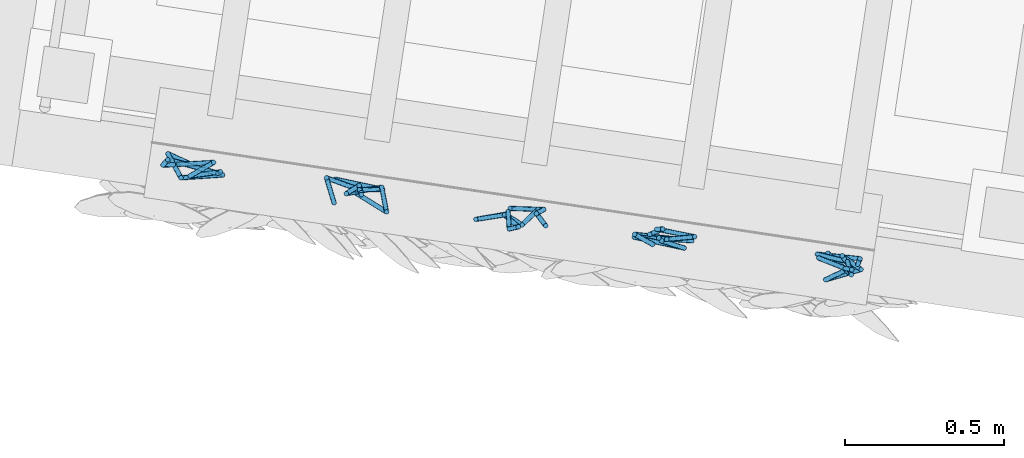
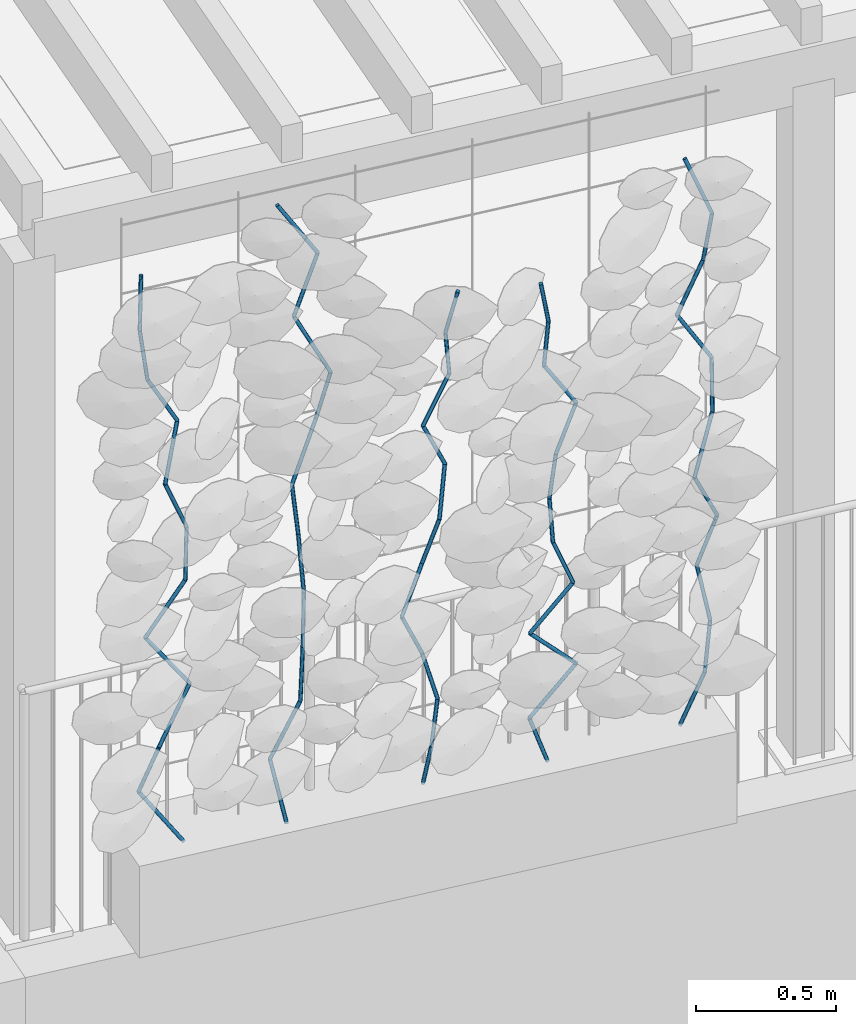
# One storey, part 102 of 128: 55 members, 1 element without a shape of its own.
"""IFC4 building model written with IfcOpenShell, lengths in metres."""

from ifc_helpers import new_model, si_unit, direction, frame, origin_with_axes, place, context, subcontext, project, spatial, circle, extrude, material, material_profile, profile_set, profile_usage, type_object, element, aggregate, save


model = new_model("IFC4")

# Units and contexts
model_context = context("Model", 3, precision=1e-05, world=origin_with_axes(), true_north=direction((0.0, 1.0)))
body_context = subcontext(model_context, "Body", "Model", "MODEL_VIEW")
ifc_project = project(units=[si_unit("VOLUMEUNIT", "CUBIC_METRE"), si_unit("LENGTHUNIT", "METRE"), si_unit("AREAUNIT", "SQUARE_METRE")], contexts=[model_context])

# Site, building, storey
site_placement = place(None, origin_with_axes())
site = spatial("IfcSite", under=ifc_project, at=site_placement, Name="Lares · Rua das Mercês · artigo 4771")
building_placement = place(site_placement, frame((15.0, 9.7, 13.9), z_axis=(0.0, 0.0, 1.0), x_axis=(0.989015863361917, -0.147809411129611, 0.0)))
building = spatial("IfcBuilding", under=site, at=building_placement, Name="Casa Sobreposta")
storey_placement = place(building_placement, origin_with_axes())
storey = spatial("IfcBuildingStorey", under=building, at=storey_placement, Name="00 · Habitação e estacionamento", Elevation=13.9)

# Assembly, members
assembly_placement = place(storey_placement, origin_with_axes())
assembly = element("IfcElementAssembly", 1, at=assembly_placement, inside=storey, Name="Fachada sul e pátio · estrutura e trepadeiras", ObjectType="LIVING_SHADE_TRELLIS", PredefinedType="USERDEFINED")
ifc_material = material(Name="Ramos de trepadeiras", Category="wood")
ifc_material_profile = material_profile(ifc_material, circle(Radius=0.0075))
ifc_profile_set = profile_set([ifc_material_profile], Name="D0.015")
ifc_profile_usage_1 = profile_usage(ifc_profile_set)
member_type = type_object("IfcMemberType", Name="D0.015 / vine_wood", PredefinedType="NOTDEFINED", material=ifc_profile_set)
member_1_placement = place(assembly_placement, frame((-5.48911948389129, -1.68313375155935, 0.35), z_axis=(-0.5585958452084, 0.161686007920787, 0.813528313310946), x_axis=(0.278037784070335, 0.960570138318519, 0.0)))
member_1 = element("IfcMember", 2, at=member_1_placement, type_object=member_type, material=ifc_profile_usage_1, Name="Trepadeiras · ramo", context=body_context, shape_type="SweptSolid", body=[
    extrude(circle(Radius=0.0075), origin_with_axes(), (0.0, 0.0, 1.0), 0.279247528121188),
])
ifc_profile_usage_2 = profile_usage(ifc_profile_set)
member_2_placement = place(assembly_placement, frame((-5.64510599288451, -1.63798333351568, 0.577175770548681), z_axis=(0.214287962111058, -0.283819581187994, 0.934626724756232), x_axis=(-0.798074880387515, -0.602558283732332, -1.82360061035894e-17)))
member_2 = element("IfcMember", 3, at=member_2_placement, type_object=member_type, material=ifc_profile_usage_2, Name="Trepadeiras · ramo", context=body_context, shape_type="SweptSolid", body=[
    extrude(circle(Radius=0.0075), origin_with_axes(), (0.0, 0.0, 1.0), 0.243065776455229),
])
ifc_profile_usage_3 = profile_usage(ifc_profile_set)
member_3_placement = place(assembly_placement, frame((-5.59301992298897, -1.70697016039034, 0.804351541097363), z_axis=(0.49060306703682, 0.107168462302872, 0.864767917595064), x_axis=(0.213409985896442, -0.976962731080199, 0.0)))
member_3 = element("IfcMember", 4, at=member_3_placement, type_object=member_type, material=ifc_profile_usage_3, Name="Trepadeiras · ramo", context=body_context, shape_type="SweptSolid", body=[
    extrude(circle(Radius=0.0075), origin_with_axes(), (0.0, 0.0, 1.0), 0.262701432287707),
])
ifc_profile_usage_4 = profile_usage(ifc_profile_set)
member_4_placement = place(assembly_placement, frame((-5.46413779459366, -1.67881685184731, 1.03152731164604), z_axis=(-0.580908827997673, 0.0761918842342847, 0.810394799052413), x_axis=(0.130045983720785, 0.991507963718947, 0.0)))
member_4 = element("IfcMember", 5, at=member_4_placement, type_object=member_type, material=ifc_profile_usage_4, Name="Trepadeiras · ramo", context=body_context, shape_type="SweptSolid", body=[
    extrude(circle(Radius=0.0075), origin_with_axes(), (0.0, 0.0, 1.0), 0.280327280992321),
])
ifc_profile_usage_5 = profile_usage(ifc_profile_set)
member_5_placement = place(assembly_placement, frame((-5.62698238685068, -1.65745818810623, 1.25870308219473), z_axis=(0.542876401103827, -0.0652245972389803, 0.837275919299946), x_axis=(-0.119288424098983, -0.992859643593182, 0.0)))
member_5 = element("IfcMember", 6, at=member_5_placement, type_object=member_type, material=ifc_profile_usage_5, Name="Trepadeiras · ramo", context=body_context, shape_type="SweptSolid", body=[
    extrude(circle(Radius=0.0075), origin_with_axes(), (0.0, 0.0, 1.0), 0.27132724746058),
])
ifc_profile_usage_6 = profile_usage(ifc_profile_set)
member_6_placement = place(assembly_placement, frame((-5.47968522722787, -1.6751553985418, 1.48587885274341), z_axis=(0.0303617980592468, 0.0225812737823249, 0.999283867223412), x_axis=(0.999538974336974, -0.000685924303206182, -0.0303540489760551)))
member_6 = element("IfcMember", 7, at=member_6_placement, type_object=member_type, material=ifc_profile_usage_6, Name="Trepadeiras · ramo", context=body_context, shape_type="SweptSolid", body=[
    extrude(circle(Radius=0.0075), origin_with_axes(), (0.0, 0.0, 1.0), 0.227338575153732),
])
ifc_profile_usage_7 = profile_usage(ifc_profile_set)
member_7_placement = place(assembly_placement, frame((-5.47278281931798, -1.67002180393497, 1.71305462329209), z_axis=(-0.377036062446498, -0.109503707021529, 0.919702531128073), x_axis=(-0.278907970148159, 0.960317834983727, 0.0)))
member_7 = element("IfcMember", 8, at=member_7_placement, type_object=member_type, material=ifc_profile_usage_7, Name="Trepadeiras · ramo", context=body_context, shape_type="SweptSolid", body=[
    extrude(circle(Radius=0.0075), origin_with_axes(), (0.0, 0.0, 1.0), 0.24701005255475),
])
ifc_profile_usage_8 = profile_usage(ifc_profile_set)
member_8_placement = place(assembly_placement, frame((-5.56591451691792, -1.6970703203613, 1.94023039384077), z_axis=(0.277419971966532, 0.219319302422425, 0.935380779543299), x_axis=(0.620172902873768, -0.784465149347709, 0.0)))
member_8 = element("IfcMember", 9, at=member_8_placement, type_object=member_type, material=ifc_profile_usage_8, Name="Trepadeiras · ramo", context=body_context, shape_type="SweptSolid", body=[
    extrude(circle(Radius=0.0075), origin_with_axes(), (0.0, 0.0, 1.0), 0.242869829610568),
])
ifc_profile_usage_9 = profile_usage(ifc_profile_set)
member_9_placement = place(assembly_placement, frame((-5.49853757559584, -1.64380427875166, 2.16740616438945), z_axis=(-0.479601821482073, -0.100828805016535, 0.871674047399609), x_axis=(-0.205736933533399, 0.97860733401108, 0.0)))
member_9 = element("IfcMember", 10, at=member_9_placement, type_object=member_type, material=ifc_profile_usage_9, Name="Trepadeiras · ramo", context=body_context, shape_type="SweptSolid", body=[
    extrude(circle(Radius=0.0075), origin_with_axes(), (0.0, 0.0, 1.0), 0.260620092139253),
])
ifc_profile_usage_10 = profile_usage(ifc_profile_set)
member_10_placement = place(assembly_placement, frame((-5.62353144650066, -1.67008229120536, 2.39458193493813), z_axis=(-0.138199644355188, -0.0231936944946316, 0.99013277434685), x_axis=(-0.165512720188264, 0.986207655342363, 0.0)))
member_10 = element("IfcMember", 11, at=member_10_placement, type_object=member_type, material=ifc_profile_usage_10, Name="Trepadeiras · ramo", context=body_context, shape_type="SweptSolid", body=[
    extrude(circle(Radius=0.0075), origin_with_axes(), (0.0, 0.0, 1.0), 0.229439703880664),
])
ifc_profile_usage_11 = profile_usage(ifc_profile_set)
member_11_placement = place(assembly_placement, frame((-5.65523993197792, -1.67540384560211, 2.62175770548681), z_axis=(0.0535549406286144, 0.0806436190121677, 0.99530320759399), x_axis=(0.833038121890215, -0.55321558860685, 0.0)))
member_11 = element("IfcMember", 12, at=member_11_placement, type_object=member_type, material=ifc_profile_usage_11, Name="Trepadeiras · ramo", context=body_context, shape_type="SweptSolid", body=[
    extrude(circle(Radius=0.0075), origin_with_axes(), (0.0, 0.0, 1.0), 0.228247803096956),
])
ifc_profile_usage_12 = profile_usage(ifc_profile_set)
member_12_placement = place(assembly_placement, frame((-5.10468814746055, -1.71366116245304, 0.35), z_axis=(-0.137802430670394, 0.29166054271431, 0.946543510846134), x_axis=(0.90416024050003, 0.427193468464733, 0.0)))
member_12 = element("IfcMember", 13, at=member_12_placement, type_object=member_type, material=ifc_profile_usage_12, Name="Trepadeiras · ramo", context=body_context, shape_type="SweptSolid", body=[
    extrude(circle(Radius=0.0075), origin_with_axes(), (0.0, 0.0, 1.0), 0.255140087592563),
])
ifc_profile_usage_13 = profile_usage(ifc_profile_set)
member_13_placement = place(assembly_placement, frame((-5.13984707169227, -1.63924686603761, 0.591501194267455), z_axis=(0.408423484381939, -0.0832690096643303, 0.908986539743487), x_axis=(-0.199769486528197, -0.9798429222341, 0.0)))
member_13 = element("IfcMember", 14, at=member_13_placement, type_object=member_type, material=ifc_profile_usage_13, Name="Trepadeiras · ramo", context=body_context, shape_type="SweptSolid", body=[
    extrude(circle(Radius=0.0075), origin_with_axes(), (0.0, 0.0, 1.0), 0.265681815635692),
])
ifc_profile_usage_14 = profile_usage(ifc_profile_set)
member_14_placement = place(assembly_placement, frame((-5.03133637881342, -1.66136992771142, 0.83300238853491), z_axis=(0.0253217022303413, -0.0345834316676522, 0.999080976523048), x_axis=(0.999679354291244, 0.000875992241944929, -0.0253065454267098)))
member_14 = element("IfcMember", 15, at=member_14_placement, type_object=member_type, material=ifc_profile_usage_14, Name="Trepadeiras · ramo", context=body_context, shape_type="SweptSolid", body=[
    extrude(circle(Radius=0.0075), origin_with_axes(), (0.0, 0.0, 1.0), 0.241723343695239),
])
ifc_profile_usage_15 = profile_usage(ifc_profile_set)
member_15_placement = place(assembly_placement, frame((-5.02521553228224, -1.66972955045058, 1.07450358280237), z_axis=(0.00711907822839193, -0.0231558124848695, 0.999706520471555), x_axis=(0.999974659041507, 0.000164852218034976, -0.00711716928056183)))
member_15 = element("IfcMember", 16, at=member_15_placement, type_object=member_type, material=ifc_profile_usage_15, Name="Trepadeiras · ramo", context=body_context, shape_type="SweptSolid", body=[
    extrude(circle(Radius=0.0075), origin_with_axes(), (0.0, 0.0, 1.0), 0.241572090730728),
])
ifc_profile_usage_16 = profile_usage(ifc_profile_set)
member_16_placement = place(assembly_placement, frame((-5.02349576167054, -1.67532334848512, 1.31600477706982), z_axis=(-0.045968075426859, 0.11193816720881, 0.992651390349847), x_axis=(0.925038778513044, 0.379872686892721, 0.0)))
member_16 = element("IfcMember", 17, at=member_16_placement, type_object=member_type, material=ifc_profile_usage_16, Name="Trepadeiras · ramo", context=body_context, shape_type="SweptSolid", body=[
    extrude(circle(Radius=0.0075), origin_with_axes(), (0.0, 0.0, 1.0), 0.243289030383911),
])
ifc_profile_usage_17 = profile_usage(ifc_profile_set)
member_17_placement = place(assembly_placement, frame((-5.03467929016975, -1.64809002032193, 1.55750597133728), z_axis=(-0.147228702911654, -0.12659142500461, 0.980968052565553), x_axis=(-0.651964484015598, 0.758249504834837, 0.0)))
member_17 = element("IfcMember", 18, at=member_17_placement, type_object=member_type, material=ifc_profile_usage_17, Name="Trepadeiras · ramo", context=body_context, shape_type="SweptSolid", body=[
    extrude(circle(Radius=0.0075), origin_with_axes(), (0.0, 0.0, 1.0), 0.246186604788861),
])
ifc_profile_usage_18 = profile_usage(ifc_profile_set)
member_18_placement = place(assembly_placement, frame((-5.07092502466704, -1.6792551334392, 1.79900716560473), z_axis=(0.40264919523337, 0.135561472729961, 0.905260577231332), x_axis=(0.319075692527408, -0.947729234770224, 0.0)))
member_18 = element("IfcMember", 19, at=member_18_placement, type_object=member_type, material=ifc_profile_usage_18, Name="Trepadeiras · ramo", context=body_context, shape_type="SweptSolid", body=[
    extrude(circle(Radius=0.0075), origin_with_axes(), (0.0, 0.0, 1.0), 0.266775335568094),
])
ifc_profile_usage_19 = profile_usage(ifc_profile_set)
member_19_placement = place(assembly_placement, frame((-4.96350815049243, -1.64309067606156, 2.04050835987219), z_axis=(0.103831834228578, -0.293087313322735, 0.950430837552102), x_axis=(-0.942596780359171, -0.33393309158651, 1.06049763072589e-17)))
member_19 = element("IfcMember", 20, at=member_19_placement, type_object=member_type, material=ifc_profile_usage_19, Name="Trepadeiras · ramo", context=body_context, shape_type="SweptSolid", body=[
    extrude(circle(Radius=0.0075), origin_with_axes(), (0.0, 0.0, 1.0), 0.254096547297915),
])
ifc_profile_usage_20 = profile_usage(ifc_profile_set)
member_20_placement = place(assembly_placement, frame((-4.93712483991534, -1.71756315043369, 2.28200955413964), z_axis=(-0.44006639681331, 0.189245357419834, 0.877797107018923), x_axis=(0.395057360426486, 0.918656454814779, 0.0)))
member_20 = element("IfcMember", 21, at=member_20_placement, type_object=member_type, material=ifc_profile_usage_20, Name="Trepadeiras · ramo", context=body_context, shape_type="SweptSolid", body=[
    extrude(circle(Radius=0.0075), origin_with_axes(), (0.0, 0.0, 1.0), 0.275121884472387),
])
ifc_profile_usage_21 = profile_usage(ifc_profile_set)
member_21_placement = place(assembly_placement, frame((-5.05819673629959, -1.6654976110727, 2.5235107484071), z_axis=(0.376883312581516, 0.0630175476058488, 0.924114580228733), x_axis=(0.164917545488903, -0.986307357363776, 0.0)))
member_21 = element("IfcMember", 22, at=member_21_placement, type_object=member_type, material=ifc_profile_usage_21, Name="Trepadeiras · ramo", context=body_context, shape_type="SweptSolid", body=[
    extrude(circle(Radius=0.0075), origin_with_axes(), (0.0, 0.0, 1.0), 0.261332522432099),
])
ifc_profile_usage_22 = profile_usage(ifc_profile_set)
member_22_placement = place(assembly_placement, frame((-4.9597048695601, -1.64902907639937, 2.76501194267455), z_axis=(-0.533411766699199, 0.0331714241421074, 0.845205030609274), x_axis=(0.0620673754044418, 0.998071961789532, 0.0)))
member_22 = element("IfcMember", 23, at=member_22_placement, type_object=member_type, material=ifc_profile_usage_22, Name="Trepadeiras · ramo", context=body_context, shape_type="SweptSolid", body=[
    extrude(circle(Radius=0.0075), origin_with_axes(), (0.0, 0.0, 1.0), 0.285730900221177),
])
ifc_profile_usage_23 = profile_usage(ifc_profile_set)
member_23_placement = place(assembly_placement, frame((-4.55888643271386, -1.65994677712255, 0.35), z_axis=(0.0582059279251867, -0.2646234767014, 0.962593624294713), x_axis=(-0.976653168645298, -0.214822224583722, 0.0)))
member_23 = element("IfcMember", 24, at=member_23_placement, type_object=member_type, material=ifc_profile_usage_23, Name="Trepadeiras · ramo", context=body_context, shape_type="SweptSolid", body=[
    extrude(circle(Radius=0.0075), origin_with_axes(), (0.0, 0.0, 1.0), 0.201881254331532),
])
ifc_profile_usage_24 = profile_usage(ifc_profile_set)
member_24_placement = place(assembly_placement, frame((-4.5471357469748, -1.7133692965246, 0.544329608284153), z_axis=(0.139714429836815, 0.0541381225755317, 0.988710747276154), x_axis=(0.361313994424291, -0.932444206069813, -5.7233605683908e-18)))
member_24 = element("IfcMember", 25, at=member_24_placement, type_object=member_type, material=ifc_profile_usage_24, Name="Trepadeiras · ramo", context=body_context, shape_type="SweptSolid", body=[
    extrude(circle(Radius=0.0075), origin_with_axes(), (0.0, 0.0, 1.0), 0.19654849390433),
])
ifc_profile_usage_25 = profile_usage(ifc_profile_set)
member_25_placement = place(assembly_placement, frame((-4.51967508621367, -1.70272853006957, 0.738659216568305), z_axis=(-0.24083116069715, 0.152433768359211, 0.958521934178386), x_axis=(0.534820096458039, 0.844965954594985, 0.0)))
member_25 = element("IfcMember", 26, at=member_25_placement, type_object=member_type, material=ifc_profile_usage_25, Name="Trepadeiras · ramo", context=body_context, shape_type="SweptSolid", body=[
    extrude(circle(Radius=0.0075), origin_with_axes(), (0.0, 0.0, 1.0), 0.202738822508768),
])
ifc_profile_usage_26 = profile_usage(ifc_profile_set)
member_26_placement = place(assembly_placement, frame((-4.56850091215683, -1.67182428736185, 0.932988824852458), z_axis=(-0.406142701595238, -0.127109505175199, 0.904926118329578), x_axis=(-0.298681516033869, 0.954352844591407, 0.0)))
member_26 = element("IfcMember", 27, at=member_26_placement, type_object=member_type, material=ifc_profile_usage_26, Name="Trepadeiras · ramo", context=body_context, shape_type="SweptSolid", body=[
    extrude(circle(Radius=0.0075), origin_with_axes(), (0.0, 0.0, 1.0), 0.214746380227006),
])
ifc_profile_usage_27 = profile_usage(ifc_profile_set)
member_27_placement = place(assembly_placement, frame((-4.65571858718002, -1.69912059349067, 1.12731843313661), z_axis=(0.415919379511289, 0.137488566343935, 0.898948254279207), x_axis=(0.313861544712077, -0.949468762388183, 1.42395565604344e-17)))
member_27 = element("IfcMember", 28, at=member_27_placement, type_object=member_type, material=ifc_profile_usage_27, Name="Trepadeiras · ramo", context=body_context, shape_type="SweptSolid", body=[
    extrude(circle(Radius=0.0075), origin_with_axes(), (0.0, 0.0, 1.0), 0.21617440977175),
])
ifc_profile_usage_28 = profile_usage(ifc_profile_set)
member_28_placement = place(assembly_placement, frame((-4.56580746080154, -1.66939908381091, 1.32164804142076), z_axis=(0.277708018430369, -0.125468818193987, 0.952436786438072), x_axis=(-0.411729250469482, -0.911306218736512, 0.0)))
member_28 = element("IfcMember", 29, at=member_28_placement, type_object=member_type, material=ifc_profile_usage_28, Name="Trepadeiras · ramo", context=body_context, shape_type="SweptSolid", body=[
    extrude(circle(Radius=0.0075), origin_with_axes(), (0.0, 0.0, 1.0), 0.204034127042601),
])
ifc_profile_usage_29 = profile_usage(ifc_profile_set)
member_29_placement = place(assembly_placement, frame((-4.50914554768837, -1.69499900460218, 1.51597764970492), z_axis=(0.207151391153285, 0.27088338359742, 0.940058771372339), x_axis=(0.794350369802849, -0.607459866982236, 0.0)))
member_29 = element("IfcMember", 30, at=member_29_placement, type_object=member_type, material=ifc_profile_usage_29, Name="Trepadeiras · ramo", context=body_context, shape_type="SweptSolid", body=[
    extrude(circle(Radius=0.0075), origin_with_axes(), (0.0, 0.0, 1.0), 0.206720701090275),
])
ifc_profile_usage_30 = profile_usage(ifc_profile_set)
member_30_placement = place(assembly_placement, frame((-4.46632306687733, -1.63900180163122, 1.71030725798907), z_axis=(-0.411905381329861, -0.0476821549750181, 0.90997822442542), x_axis=(-0.11499206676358, 0.993366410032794, 0.0)))
member_30 = element("IfcMember", 31, at=member_30_placement, type_object=member_type, material=ifc_profile_usage_30, Name="Trepadeiras · ramo", context=body_context, shape_type="SweptSolid", body=[
    extrude(circle(Radius=0.0075), origin_with_axes(), (0.0, 0.0, 1.0), 0.213554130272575),
])
ifc_profile_usage_31 = profile_usage(ifc_profile_set)
member_31_placement = place(assembly_placement, frame((-4.55428716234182, -1.64918452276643, 1.90463686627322), z_axis=(0.477641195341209, 0.0557818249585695, 0.876782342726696), x_axis=(0.115997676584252, -0.993249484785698, 0.0)))
member_31 = element("IfcMember", 32, at=member_31_placement, type_object=member_type, material=ifc_profile_usage_31, Name="Trepadeiras · ramo", context=body_context, shape_type="SweptSolid", body=[
    extrude(circle(Radius=0.0075), origin_with_axes(), (0.0, 0.0, 1.0), 0.221639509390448),
])
ifc_profile_usage_32 = profile_usage(ifc_profile_set)
member_32_placement = place(assembly_placement, frame((-4.44842300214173, -1.63682106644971, 2.09896647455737), z_axis=(-0.107089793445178, -0.0814407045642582, 0.990908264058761), x_axis=(-0.605330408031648, 0.795974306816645, 0.0)))
member_32 = element("IfcMember", 33, at=member_32_placement, type_object=member_type, material=ifc_profile_usage_32, Name="Trepadeiras · ramo", context=body_context, shape_type="SweptSolid", body=[
    extrude(circle(Radius=0.0075), origin_with_axes(), (0.0, 0.0, 1.0), 0.196112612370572),
])
ifc_profile_usage_33 = profile_usage(ifc_profile_set)
member_33_placement = place(assembly_placement, frame((-4.46942466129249, -1.65279261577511, 2.29329608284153), z_axis=(0.172625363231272, -0.169503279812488, 0.970293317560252), x_axis=(-0.70062493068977, -0.713529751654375, 0.0)))
member_33 = element("IfcMember", 34, at=member_33_placement, type_object=member_type, material=ifc_profile_usage_33, Name="Trepadeiras · ramo", context=body_context, shape_type="SweptSolid", body=[
    extrude(circle(Radius=0.0075), origin_with_axes(), (0.0, 0.0, 1.0), 0.200279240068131),
])
ifc_profile_usage_34 = profile_usage(ifc_profile_set)
member_34_placement = place(assembly_placement, frame((-4.09287553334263, -1.6949556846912, 0.35), z_axis=(-0.307187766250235, 0.116740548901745, 0.944461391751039), x_axis=(0.355242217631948, 0.934774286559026, 0.0)))
member_34 = element("IfcMember", 35, at=member_34_placement, type_object=member_type, material=ifc_profile_usage_34, Name="Trepadeiras · ramo", context=body_context, shape_type="SweptSolid", body=[
    extrude(circle(Radius=0.0075), origin_with_axes(), (0.0, 0.0, 1.0), 0.199476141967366),
])
ifc_profile_usage_35 = profile_usage(ifc_profile_set)
member_35_placement = place(assembly_placement, frame((-4.1541521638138, -1.67166873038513, 0.538397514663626), z_axis=(0.696809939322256, 0.0254508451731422, 0.716804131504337), x_axis=(0.0365004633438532, -0.999333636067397, 0.0)))
member_35 = element("IfcMember", 36, at=member_35_placement, type_object=member_type, material=ifc_profile_usage_35, Name="Trepadeiras · ramo", context=body_context, shape_type="SweptSolid", body=[
    extrude(circle(Radius=0.0075), origin_with_axes(), (0.0, 0.0, 1.0), 0.262829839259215),
])
ifc_profile_usage_36 = profile_usage(ifc_profile_set)
member_36_placement = place(assembly_placement, frame((-3.97100971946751, -1.66497948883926, 0.726795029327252), z_axis=(-0.698068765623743, -0.0595200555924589, 0.713552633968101), x_axis=(-0.0849556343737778, 0.99638473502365, 0.0)))
member_36 = element("IfcMember", 37, at=member_36_placement, type_object=member_type, material=ifc_profile_usage_36, Name="Trepadeiras · ramo", context=body_context, shape_type="SweptSolid", body=[
    extrude(circle(Radius=0.0075), origin_with_axes(), (0.0, 0.0, 1.0), 0.264027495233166),
])
ifc_profile_usage_37 = profile_usage(ifc_profile_set)
member_37_placement = place(assembly_placement, frame((-4.15531906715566, -1.68069442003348, 0.915192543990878), z_axis=(0.651819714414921, -0.0434715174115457, 0.757126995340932), x_axis=(-0.0665447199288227, -0.997783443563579, 0.0)))
member_37 = element("IfcMember", 38, at=member_37_placement, type_object=member_type, material=ifc_profile_usage_37, Name="Trepadeiras · ramo", context=body_context, shape_type="SweptSolid", body=[
    extrude(circle(Radius=0.0075), origin_with_axes(), (0.0, 0.0, 1.0), 0.248832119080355),
])
ifc_profile_usage_38 = profile_usage(ifc_profile_set)
member_38_placement = place(assembly_placement, frame((-3.99312538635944, -1.69151152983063, 1.1035900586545), z_axis=(-0.362175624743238, 0.0579118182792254, 0.930309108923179), x_axis=(0.157894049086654, 0.987456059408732, 8.80006917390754e-18)))
member_38 = element("IfcMember", 39, at=member_38_placement, type_object=member_type, material=ifc_profile_usage_38, Name="Trepadeiras · ramo", context=body_context, shape_type="SweptSolid", body=[
    extrude(circle(Radius=0.0075), origin_with_axes(), (0.0, 0.0, 1.0), 0.202510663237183),
])
ifc_profile_usage_39 = profile_usage(ifc_profile_set)
member_39_placement = place(assembly_placement, frame((-4.06646981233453, -1.67978376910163, 1.29198757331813), z_axis=(-0.0557975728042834, 0.042595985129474, 0.997533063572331), x_axis=(0.606795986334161, 0.794857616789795, 0.0)))
member_39 = element("IfcMember", 40, at=member_39_placement, type_object=member_type, material=ifc_profile_usage_39, Name="Trepadeiras · ramo", context=body_context, shape_type="SweptSolid", body=[
    extrude(circle(Radius=0.0075), origin_with_axes(), (0.0, 0.0, 1.0), 0.188863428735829),
])
ifc_profile_usage_40 = profile_usage(ifc_profile_set)
member_40_placement = place(assembly_placement, frame((-4.07700793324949, -1.6717389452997, 1.48038508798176), z_axis=(0.132079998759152, -0.00406458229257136, 0.991230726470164), x_axis=(-0.0307590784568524, -0.999526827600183, 0.0)))
member_40 = element("IfcMember", 41, at=member_40_placement, type_object=member_type, material=ifc_profile_usage_40, Name="Trepadeiras · ramo", context=body_context, shape_type="SweptSolid", body=[
    extrude(circle(Radius=0.0075), origin_with_axes(), (0.0, 0.0, 1.0), 0.190064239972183),
])
ifc_profile_usage_41 = profile_usage(ifc_profile_set)
member_41_placement = place(assembly_placement, frame((-4.0519042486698, -1.67251147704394, 1.66878260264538), z_axis=(0.413891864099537, 0.100720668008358, 0.904736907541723), x_axis=(0.236449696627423, -0.9716437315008, 0.0)))
member_41 = element("IfcMember", 42, at=member_41_placement, type_object=member_type, material=ifc_profile_usage_41, Name="Trepadeiras · ramo", context=body_context, shape_type="SweptSolid", body=[
    extrude(circle(Radius=0.0075), origin_with_axes(), (0.0, 0.0, 1.0), 0.208234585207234),
])
ifc_profile_usage_42 = profile_usage(ifc_profile_set)
member_42_placement = place(assembly_placement, frame((-3.96571764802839, -1.65153795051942, 1.85718011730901), z_axis=(-0.541985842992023, 0.0270437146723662, 0.839952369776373), x_axis=(0.0498354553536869, 0.998757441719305, 0.0)))
member_42 = element("IfcMember", 43, at=member_42_placement, type_object=member_type, material=ifc_profile_usage_42, Name="Trepadeiras · ramo", context=body_context, shape_type="SweptSolid", body=[
    extrude(circle(Radius=0.0075), origin_with_axes(), (0.0, 0.0, 1.0), 0.224295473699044),
])
ifc_profile_usage_43 = profile_usage(ifc_profile_set)
member_43_placement = place(assembly_placement, frame((-4.08728261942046, -1.6454721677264, 2.04557763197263), z_axis=(0.0964738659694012, 0.0163248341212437, 0.995201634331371), x_axis=(0.166843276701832, -0.985983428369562, 0.0)))
member_43 = element("IfcMember", 44, at=member_43_placement, type_object=member_type, material=ifc_profile_usage_43, Name="Trepadeiras · ramo", context=body_context, shape_type="SweptSolid", body=[
    extrude(circle(Radius=0.0075), origin_with_axes(), (0.0, 0.0, 1.0), 0.189305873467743),
])
ifc_profile_usage_44 = profile_usage(ifc_profile_set)
member_44_placement = place(assembly_placement, frame((-4.06901954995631, -1.64238178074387, 2.23397514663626), z_axis=(-0.197104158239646, -0.116474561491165, 0.973439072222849), x_axis=(-0.508742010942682, 0.860919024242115, 0.0)))
member_44 = element("IfcMember", 45, at=member_44_placement, type_object=member_type, material=ifc_profile_usage_44, Name="Trepadeiras · ramo", context=body_context, shape_type="SweptSolid", body=[
    extrude(circle(Radius=0.0075), origin_with_axes(), (0.0, 0.0, 1.0), 0.193538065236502),
])
ifc_profile_usage_45 = profile_usage(ifc_profile_set)
member_45_placement = place(assembly_placement, frame((-3.56977088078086, -1.65988401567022, 0.35), z_axis=(0.364069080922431, -0.0843859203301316, 0.927541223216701), x_axis=(-0.225799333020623, -0.974173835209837, 0.0)))
member_45 = element("IfcMember", 46, at=member_45_placement, type_object=member_type, material=ifc_profile_usage_45, Name="Trepadeiras · ramo", context=body_context, shape_type="SweptSolid", body=[
    extrude(circle(Radius=0.0075), origin_with_axes(), (0.0, 0.0, 1.0), 0.2409562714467),
])
ifc_profile_usage_46 = profile_usage(ifc_profile_set)
member_46_placement = place(assembly_placement, frame((-3.48204615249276, -1.68021733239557, 0.573496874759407), z_axis=(0.090375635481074, -0.00367253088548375, 0.995900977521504), x_axis=(-0.0406027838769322, -0.999175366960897, 0.0)))
member_46 = element("IfcMember", 47, at=member_46_placement, type_object=member_type, material=ifc_profile_usage_46, Name="Trepadeiras · ramo", context=body_context, shape_type="SweptSolid", body=[
    extrude(circle(Radius=0.0075), origin_with_axes(), (0.0, 0.0, 1.0), 0.224416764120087),
])
ifc_profile_usage_47 = profile_usage(ifc_profile_set)
member_47_placement = place(assembly_placement, frame((-3.4617643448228, -1.68104150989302, 0.796993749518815), z_axis=(-0.15679958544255, 0.169233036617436, 0.973023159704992), x_axis=(0.733539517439, 0.6796468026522, 0.0)))
member_47 = element("IfcMember", 48, at=member_47_placement, type_object=member_type, material=ifc_profile_usage_47, Name="Trepadeiras · ramo", context=body_context, shape_type="SweptSolid", body=[
    extrude(circle(Radius=0.0075), origin_with_axes(), (0.0, 0.0, 1.0), 0.229693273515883),
])
ifc_profile_usage_48 = profile_usage(ifc_profile_set)
member_48_placement = place(assembly_placement, frame((-3.49778015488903, -1.64216981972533, 1.02049062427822), z_axis=(0.277630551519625, -0.143382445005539, 0.949927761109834), x_axis=(-0.458868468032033, -0.888504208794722, 0.0)))
member_48 = element("IfcMember", 49, at=member_48_placement, type_object=member_type, material=ifc_profile_usage_48, Name="Trepadeiras · ramo", context=body_context, shape_type="SweptSolid", body=[
    extrude(circle(Radius=0.0075), origin_with_axes(), (0.0, 0.0, 1.0), 0.235277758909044),
])
ifc_profile_usage_49 = profile_usage(ifc_profile_set)
member_49_placement = place(assembly_placement, frame((-3.43245986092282, -1.67590452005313, 1.24398749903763), z_axis=(-0.422018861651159, -0.193526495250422, 0.885690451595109), x_axis=(-0.416834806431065, 0.908982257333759, 0.0)))
member_49 = element("IfcMember", 50, at=member_49_placement, type_object=member_type, material=ifc_profile_usage_49, Name="Trepadeiras · ramo", context=body_context, shape_type="SweptSolid", body=[
    extrude(circle(Radius=0.0075), origin_with_axes(), (0.0, 0.0, 1.0), 0.252341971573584),
])
ifc_profile_usage_50 = profile_usage(ifc_profile_set)
member_50_placement = place(assembly_placement, frame((-3.53895293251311, -1.72473937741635, 1.46748437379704), z_axis=(0.374557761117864, 0.252728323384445, 0.89209577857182), x_axis=(0.559323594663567, -0.828949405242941, 0.0)))
member_50 = element("IfcMember", 51, at=member_50_placement, type_object=member_type, material=ifc_profile_usage_50, Name="Trepadeiras · ramo", context=body_context, shape_type="SweptSolid", body=[
    extrude(circle(Radius=0.0075), origin_with_axes(), (0.0, 0.0, 1.0), 0.250530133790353),
])
ifc_profile_usage_51 = profile_usage(ifc_profile_set)
member_51_placement = place(assembly_placement, frame((-3.44511492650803, -1.66142331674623, 1.69098124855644), z_axis=(0.0181520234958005, 0.0820861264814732, 0.99645991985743), x_axis=(0.976411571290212, -0.215917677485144, 0.0)))
member_51 = element("IfcMember", 52, at=member_51_placement, type_object=member_type, material=ifc_profile_usage_51, Name="Trepadeiras · ramo", context=body_context, shape_type="SweptSolid", body=[
    extrude(circle(Radius=0.0075), origin_with_axes(), (0.0, 0.0, 1.0), 0.224290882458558),
])
ifc_profile_usage_52 = profile_usage(ifc_profile_set)
member_52_placement = place(assembly_placement, frame((-3.44104359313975, -1.64301214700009, 1.91447812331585), z_axis=(-0.519270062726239, -0.0208159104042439, 0.854356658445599), x_axis=(-0.0400546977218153, 0.99919748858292, 0.0)))
member_52 = element("IfcMember", 53, at=member_52_placement, type_object=member_type, material=ifc_profile_usage_52, Name="Trepadeiras · ramo", context=body_context, shape_type="SweptSolid", body=[
    extrude(circle(Radius=0.0075), origin_with_axes(), (0.0, 0.0, 1.0), 0.261596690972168),
])
ifc_profile_usage_53 = profile_usage(ifc_profile_set)
member_53_placement = place(assembly_placement, frame((-3.57688292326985, -1.64845752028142, 2.13797499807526), z_axis=(0.401780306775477, -0.0378767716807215, 0.914952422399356), x_axis=(-0.0938562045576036, -0.995585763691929, 0.0)))
member_53 = element("IfcMember", 54, at=member_53_placement, type_object=member_type, material=ifc_profile_usage_53, Name="Trepadeiras · ramo", context=body_context, shape_type="SweptSolid", body=[
    extrude(circle(Radius=0.0075), origin_with_axes(), (0.0, 0.0, 1.0), 0.24427158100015),
])
ifc_profile_usage_54 = profile_usage(ifc_profile_set)
member_54_placement = place(assembly_placement, frame((-3.47873941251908, -1.65770973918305, 2.36147187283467), z_axis=(0.0800360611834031, -0.172430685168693, 0.98176468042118), x_axis=(-0.907051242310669, -0.421020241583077, 0.0)))
member_54 = element("IfcMember", 55, at=member_54_placement, type_object=member_type, material=ifc_profile_usage_54, Name="Trepadeiras · ramo", context=body_context, shape_type="SweptSolid", body=[
    extrude(circle(Radius=0.0075), origin_with_axes(), (0.0, 0.0, 1.0), 0.227648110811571),
])
ifc_profile_usage_55 = profile_usage(ifc_profile_set)
member_55_placement = place(assembly_placement, frame((-3.46051935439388, -1.69696325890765, 2.58496874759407), z_axis=(-0.339487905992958, 0.231447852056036, 0.911690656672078), x_axis=(0.563301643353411, 0.826251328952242, 0.0)))
member_55 = element("IfcMember", 56, at=member_55_placement, type_object=member_type, material=ifc_profile_usage_55, Name="Trepadeiras · ramo", context=body_context, shape_type="SweptSolid", body=[
    extrude(circle(Radius=0.0075), origin_with_axes(), (0.0, 0.0, 1.0), 0.245145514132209),
])
aggregate(assembly, [member_1, member_2, member_3, member_4, member_5, member_6, member_7, member_8, member_9, member_10, member_11, member_12, member_13, member_14, member_15, member_16, member_17, member_18, member_19, member_20, member_21, member_22, member_23, member_24, member_25, member_26, member_27, member_28, member_29, member_30, member_31, member_32, member_33, member_34, member_35, member_36, member_37, member_38, member_39, member_40, member_41, member_42, member_43, member_44, member_45, member_46, member_47, member_48, member_49, member_50, member_51, member_52, member_53, member_54, member_55])

save(model, "model.ifc")
